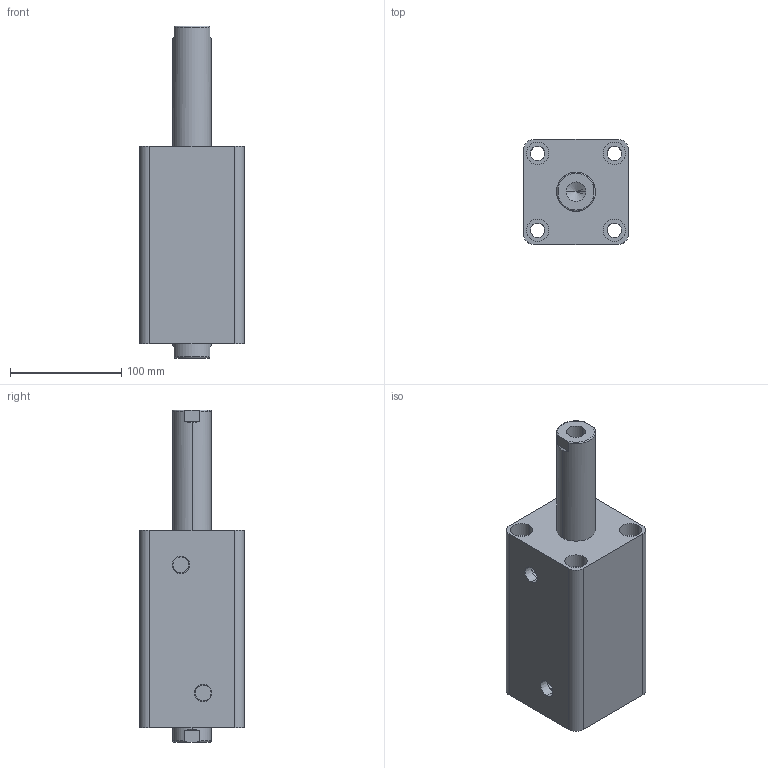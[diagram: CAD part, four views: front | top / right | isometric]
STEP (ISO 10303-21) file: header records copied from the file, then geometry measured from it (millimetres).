
FILE_DESCRIPTION (( 'STEP AP203' ), '1' );
FILE_NAME ('HTB-SW63-95N.STEP', '2019-10-07T10:09:21', ( '微软用户' ), ( '微软中国' ), 'SwSTEP 2.0', 'SolidWorks 2012', '' );
FILE_SCHEMA (( 'CONFIG_CONTROL_DESIGN' ));
Length unit declared in the file: millimetre
Products named in the file (3): HTB-SW63-95N; HTB-SW63-95N活塞杆; HTB-SW63-95掛极
Assembly tree (2 placements, depth 2):
  HTB-SW63-95N
    HTB-SW63-95掛极
    HTB-SW63-95N活塞杆
Bounding box: 94 x 94 x 298 mm (x, y, z)
Volume: 1335693.8 mm3; surface area: 187062.4 mm2
Topology: 2 solids, 2 shells, 100 faces, 228 edges, 146 vertices
Faces by surface type: cylinder 48, plane 32, torus 12, cone 8
Entity records: 3253 total; most frequent: CARTESIAN_POINT 611, DIRECTION 542, ORIENTED_EDGE 448, AXIS2_PLACEMENT_3D 229, EDGE_CURVE 224, VERTEX_POINT 146, EDGE_LOOP 128, CIRCLE 124
